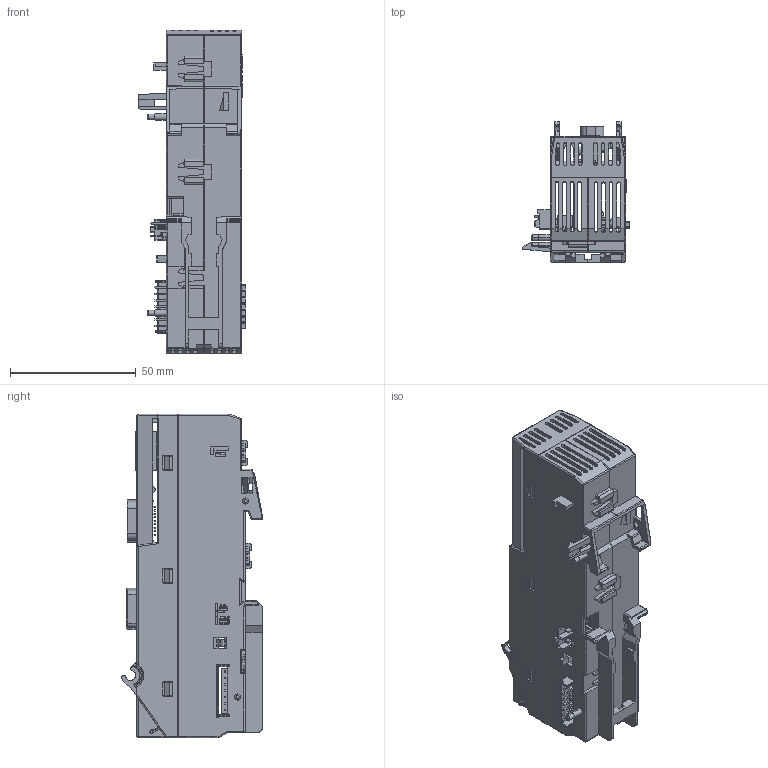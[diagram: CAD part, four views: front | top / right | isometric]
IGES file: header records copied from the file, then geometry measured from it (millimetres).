
Start section:  PTC IGES file: 2036220
Global section: file name: 2036220; native system: Creo Parametric by PTC Inc.; preprocessor: 2019292; author: t.hampe; organization: Unknown; date: 20240306.155922; units: millimetre
Bounding box: 42.27 x 55.97 x 128.92 mm (x, y, z)
Surface area: 57278 mm2 (no closed solid volume)
Topology: 0 solids, 0 shells, 3859 faces, 20842 edges, 20814 vertices
Faces by surface type: bspline 2526, revolution 1320, extrusion 13
